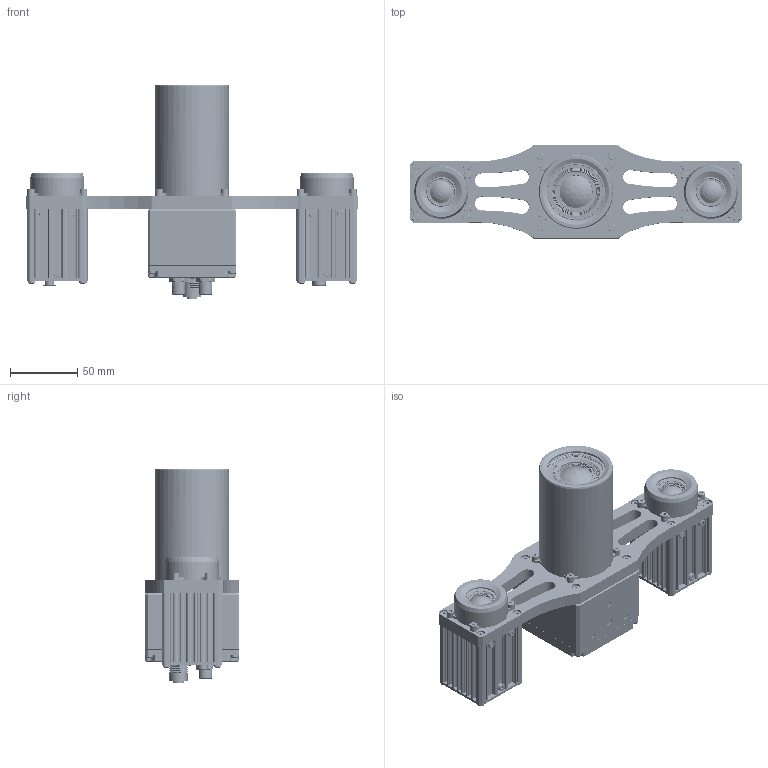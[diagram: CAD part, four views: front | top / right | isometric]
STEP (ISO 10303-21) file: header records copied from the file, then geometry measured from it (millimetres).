
FILE_DESCRIPTION(/* description */ (''),/* implementation_level */ '2;1');
FILE_NAME(/* name */ '115543.stp',/* time_stamp */ '2025-06-23T09:23:03+02:00',/* author */ (''),/* organization */ (''),/* preprocessor_version */ 'ST-DEVELOPER v20',/* originating_system */ 'Autodesk Inventor 2024',/* authorisation */ '');
FILE_SCHEMA (('CONFIG_CONTROL_DESIGN'));
Products named in the file (1): 115543
Bounding box: 246.3 x 70 x 159.5 mm (x, y, z)
Volume: 749424.1 mm3; surface area: 134820.5 mm2
Topology: 1 solids, 1 shells, 5984 faces, 16592 edges, 10767 vertices
Faces by surface type: cylinder 2793, plane 2363, cone 387, bspline 286, torus 136, sphere 19
Full cylindrical faces by diameter (mm): 0.7 x12, 0.95 x12, 1 x8, 1.2 x4, 1.3 x2, 1.4 x12, 1.567 x4, 2.5 x5, 2.7 x2, 3 x18, 3.3 x16, 3.4 x4, 4.2 x6, 5.105 x1, 5.5 x30, 5.6 x14, 5.8 x2, 6.3 x12, 6.917 x2, 7 x2, 7.6 x2, 8 x2, 10 x2, 10.857 x11, 11.94 x11, 13.256 x5, 13.44 x1, 14 x1, 16.5 x2, 16.9 x2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
Entity records: 223278 total; most frequent: CARTESIAN_POINT 61533, ORIENTED_EDGE 33090, DIRECTION 33022, EDGE_CURVE 16545, AXIS2_PLACEMENT_3D 12021, VERTEX_POINT 10767, LINE 8980, VECTOR 8980
